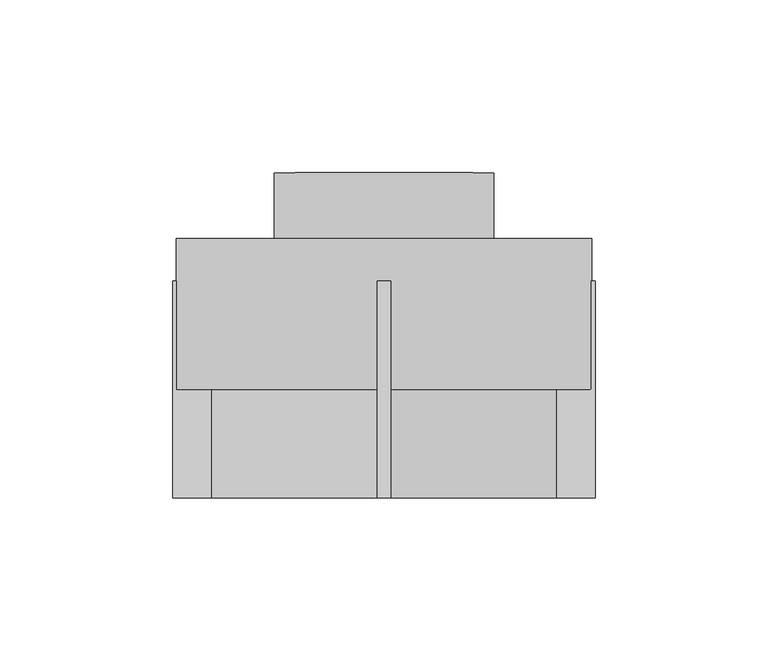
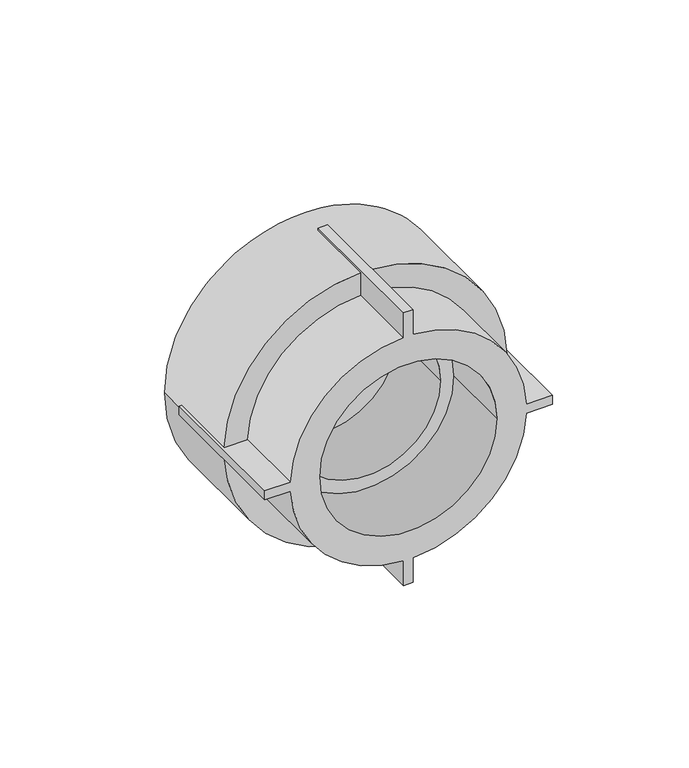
"""IFC4 building model written with IfcOpenShell, lengths in millimetres: pipe fitting geometry, EGB_VASEN_ PPR_Entronque rosca hembra WXR102 : Entronque rosca hembra WXR102."""

import ifcopenshell
import ifcopenshell.guid

model = None  # the IFC model being written
_history = None  # IfcOwnerHistory: only IFC2X3 demands one
_inside = {}  # id of a spatial element -> (the spatial element, [elements in it])
_under = {}  # id of a project, library or spatial element -> (it, [spatial elements below it])
_declared = {}  # id of a project -> (the project, [libraries it declares])
_typed = {}  # id of a type object -> (the type object, [elements of that type])
_made_of = {}  # id of a material, layer set ... -> (it, [elements and type objects made of it])


def new_model(schema):
    """Start an empty IFC model of exactly this schema.

    Asked for "IFC4X3", IfcOpenShell would pick the latest addendum, in which some entities
    have other attributes; the version numbers below select the first issue.
    IFC2X3 requires an IfcOwnerHistory on every rooted entity: one is made here for all.
    """
    global model, _history
    if schema == "IFC4X3":
        model = ifcopenshell.file(schema_version=(4, 3, 0, 0))
    else:
        model = ifcopenshell.file(schema=schema)
    _inside.clear()
    _under.clear()
    _declared.clear()
    _typed.clear()
    _made_of.clear()
    _history = None
    if model.schema == "IFC2X3":
        org = make("IfcOrganization", Name="unknown")
        user = make(
            "IfcPersonAndOrganization",
            ThePerson=make("IfcPerson", FamilyName="unknown"),
            TheOrganization=org,
        )
        app = make(
            "IfcApplication",
            ApplicationDeveloper=org,
            Version="unknown",
            ApplicationFullName="unknown",
            ApplicationIdentifier="unknown",
        )
        _history = make(
            "IfcOwnerHistory",
            OwningUser=user,
            OwningApplication=app,
            ChangeAction="ADDED",
            CreationDate=0,
        )
    return model


def make(cls, **values):
    """One entity of the class cls with the attributes given. An attribute that is None is left unset."""
    return model.create_entity(
        cls, **{name: value for name, value in values.items() if value is not None}
    )


def rooted(cls, **values):
    """An entity with a GlobalId (a new one), such as an element, a storey or a relation."""
    return make(cls, GlobalId=ifcopenshell.guid.new(), OwnerHistory=_history, **values)


def si_unit(unit_type, name, prefix=None):
    """IfcSIUnit, for example si_unit("LENGTHUNIT", "METRE", prefix="MILLI")."""
    return make("IfcSIUnit", UnitType=unit_type, Prefix=prefix, Name=name)


def assignment(units):
    """IfcUnitAssignment: the units of a project."""
    return None if units is None else make("IfcUnitAssignment", Units=units)


def point(xyz):
    """IfcCartesianPoint."""
    return None if xyz is None else make("IfcCartesianPoint", Coordinates=xyz)


def direction(xyz):
    """IfcDirection."""
    return None if xyz is None else make("IfcDirection", DirectionRatios=xyz)


def frame(location, z_axis=None, x_axis=None):
    """IfcAxis2Placement3D, a coordinate frame: its origin and axes. An axis left out is left unset."""
    return make(
        "IfcAxis2Placement3D",
        Location=point(location),
        Axis=direction(z_axis),
        RefDirection=direction(x_axis),
    )


def frame_2d(location, x_axis=None):
    """IfcAxis2Placement2D, a coordinate frame in the plane: its origin and x axis."""
    return make(
        "IfcAxis2Placement2D", Location=point(location), RefDirection=direction(x_axis)
    )


def origin():
    """The frame at (0, 0, 0) with its axes left unset."""
    return frame((0.0, 0.0, 0.0))


def origin_2d():
    """The frame at (0, 0) in the plane with its x axis left unset."""
    return frame_2d((0.0, 0.0))


def place(relative_to, where):
    """IfcLocalPlacement: puts the frame where relative to a parent placement (None: the world)."""
    return make(
        "IfcLocalPlacement", PlacementRelTo=relative_to, RelativePlacement=where
    )


def context(
    kind, dimensions, precision=None, world=None, true_north=None, identifier=None
):
    """IfcGeometricRepresentationContext, for example the 3D "Model" context."""
    return make(
        "IfcGeometricRepresentationContext",
        ContextIdentifier=identifier,
        ContextType=kind,
        CoordinateSpaceDimension=dimensions,
        Precision=precision,
        WorldCoordinateSystem=world,
        TrueNorth=true_north,
    )


def project(units=None, contexts=None):
    """IfcProject with its units and contexts."""
    return rooted(
        "IfcProject",
        Name="project",
        RepresentationContexts=contexts,
        UnitsInContext=assignment(units),
    )


def spatial(cls, under=None, at=None, **own):
    """A site, building, storey or space (cls), placed at a placement, below another one or the project."""
    s = rooted(cls, ObjectPlacement=at, **own)
    if under is not None:
        _under.setdefault(under.id(), (under, []))[1].append(s)
    return s


def polyline(points):
    """IfcPolyline through the points."""
    return make("IfcPolyline", Points=[point(p) for p in points])


def circle_curve(where, radius):
    """IfcCircle in the frame where."""
    return make("IfcCircle", Position=where, Radius=radius)


def trimmed(basis, trim1, trim2, sense, master):
    """IfcTrimmedCurve: the piece of a basis curve between two trims."""
    return make(
        "IfcTrimmedCurve",
        BasisCurve=basis,
        Trim1=trim1,
        Trim2=trim2,
        SenseAgreement=sense,
        MasterRepresentation=master,
    )


def segment(curve, same_sense, transition):
    """IfcCompositeCurveSegment."""
    return make(
        "IfcCompositeCurveSegment",
        Transition=transition,
        SameSense=same_sense,
        ParentCurve=curve,
    )


def composite_curve(segments, self_intersect=None):
    """IfcCompositeCurve: segments joined end to end."""
    return make("IfcCompositeCurve", Segments=segments, SelfIntersect=self_intersect)


def outline(outer, holes=None, kind="AREA"):
    """IfcArbitraryClosedProfileDef: a profile drawn as a closed curve; with holes, ...WithVoids."""
    if holes is None:
        return make("IfcArbitraryClosedProfileDef", ProfileType=kind, OuterCurve=outer)
    return make(
        "IfcArbitraryProfileDefWithVoids",
        ProfileType=kind,
        OuterCurve=outer,
        InnerCurves=holes,
    )


def extrude(swept, where, along, depth):
    """IfcExtrudedAreaSolid: the profile swept, set in the frame where, extruded along a direction by depth."""
    return make(
        "IfcExtrudedAreaSolid",
        SweptArea=swept,
        Position=where,
        ExtrudedDirection=direction(along),
        Depth=depth,
    )


def shape(context_of_items, identifier, shape_type, items):
    """IfcShapeRepresentation: the items that make up one representation, for example the "Body"."""
    return make(
        "IfcShapeRepresentation",
        ContextOfItems=context_of_items,
        RepresentationIdentifier=identifier,
        RepresentationType=shape_type,
        Items=items,
    )


def source(mapping_origin, context_of_items, identifier, shape_type, items):
    """IfcRepresentationMap: a shape defined once, which mapped items show again and again."""
    return make(
        "IfcRepresentationMap",
        MappingOrigin=mapping_origin,
        MappedRepresentation=shape(context_of_items, identifier, shape_type, items),
    )


def transform(
    local_origin,
    x_axis=None,
    y_axis=None,
    z_axis=None,
    scale=None,
    scale2=None,
    scale3=None,
    uniform=True,
):
    """IfcCartesianTransformationOperator3D, or its non-uniform kind. x_axis, y_axis, z_axis: its Axis1, 2, 3."""
    if uniform:
        return make(
            "IfcCartesianTransformationOperator3D",
            Axis1=direction(x_axis),
            Axis2=direction(y_axis),
            LocalOrigin=point(local_origin),
            Scale=scale,
            Axis3=direction(z_axis),
        )
    return make(
        "IfcCartesianTransformationOperator3DnonUniform",
        Axis1=direction(x_axis),
        Axis2=direction(y_axis),
        LocalOrigin=point(local_origin),
        Scale=scale,
        Axis3=direction(z_axis),
        Scale2=scale2,
        Scale3=scale3,
    )


def mapped(mapping_source, mapping_target):
    """IfcMappedItem: shows the shape of a source again, moved by a transform."""
    return make(
        "IfcMappedItem", MappingSource=mapping_source, MappingTarget=mapping_target
    )


def made_of(thing, what):
    """Note that an element or type object is made of a material, layer set ...; save() writes the relation."""
    if what is not None:
        _made_of.setdefault(what.id(), (what, []))[1].append(thing)
    return thing


def element(
    cls,
    number,
    at=None,
    inside=None,
    cuts=None,
    type_object=None,
    material=None,
    context=None,
    identifier="Body",
    shape_type=None,
    held_by="IfcProductDefinitionShape",
    body=None,
    shapes=None,
    **own,
):
    """One element of the class cls, such as IfcWall. Its Tag is "e" and its number.

    at: its placement. inside: the storey or other place that contains it. cuts: it is an
    opening in that element (IfcRelVoidsElement). A single representation is given by context,
    identifier, shape_type and body (its items); several are given by shapes. held_by: the class
    of the entity that holds the representations. save() writes the other relations.
    """
    e = rooted(cls, Tag="e%d" % number, ObjectPlacement=at, **own)
    if body is not None:
        shapes = [shape(context, identifier, shape_type, body)]
    if shapes is not None:
        e.Representation = make(held_by, Representations=shapes)
    if inside is not None:
        _inside.setdefault(inside.id(), (inside, []))[1].append(e)
    if cuts is not None:
        rooted(
            "IfcRelVoidsElement", RelatingBuildingElement=cuts, RelatedOpeningElement=e
        )
    if type_object is not None:
        _typed.setdefault(type_object.id(), (type_object, []))[1].append(e)
    return made_of(e, material)


def aggregate(whole, parts):
    """IfcRelAggregates: a whole, such as a stair, and the parts it consists of."""
    return rooted("IfcRelAggregates", RelatingObject=whole, RelatedObjects=parts)


def save(model, path):
    """Write the relations noted so far, then the file.

    IfcRelAggregates (storeys below a building ...), IfcRelContainedInSpatialStructure (elements
    in a storey), IfcRelDefinesByType, IfcRelAssociatesMaterial and IfcRelDeclares: one each for
    every whole, place, type object, material and project.
    """
    for whole, parts in _under.values():
        aggregate(whole, parts)
    for where, things in _inside.values():
        rooted(
            "IfcRelContainedInSpatialStructure",
            RelatedElements=things,
            RelatingStructure=where,
        )
    for kind, things in _typed.values():
        rooted("IfcRelDefinesByType", RelatedObjects=things, RelatingType=kind)
    for what, things in _made_of.values():
        rooted("IfcRelAssociatesMaterial", RelatedObjects=things, RelatingMaterial=what)
    for by, libraries in _declared.values():
        rooted("IfcRelDeclares", RelatingContext=by, RelatedDefinitions=libraries)
    model.write(path)


def plane_surface(at):
    """IfcPlane: the flat surface through the origin of the frame at, square to its z axis."""
    return make("IfcPlane", Position=at)


def cylinder_surface(at, radius):
    """IfcCylindricalSurface: all points at the distance radius from the z axis of the frame at."""
    return make("IfcCylindricalSurface", Position=at, Radius=radius)


def revolved_surface(curve, axis_point, axis_direction):
    """IfcSurfaceOfRevolution: the curve turned about the line through axis_point along axis_direction."""
    return make(
        "IfcSurfaceOfRevolution",
        SweptCurve=make("IfcArbitraryOpenProfileDef", ProfileType="CURVE", Curve=curve),
        AxisPosition=make("IfcAxis1Placement", Location=point(axis_point), Axis=direction(axis_direction)),
    )


def advanced_brep(points, edges, surfaces, faces):
    """IfcAdvancedBrep: a solid bounded by faces that lie on surfaces and meet in shared edges.

    An edge is (start, end): straight between two places in points (the first is 0);
    or (start, end, curve); or (start, end, curve, False) where it runs against its curve.
    A face is (place in surfaces, loops), or (place, loops, False) where it looks against
    its surface's normal. A loop lists edges by number (the first is 1), with a minus sign
    where the edge is run from its end to its start. The first loop is the outer one.
    """
    corners = [point(p) for p in points]
    vertices = [make("IfcVertexPoint", VertexGeometry=c) for c in corners]
    made = []
    for start, end, *more in edges:
        made.append(
            make(
                "IfcEdgeCurve",
                EdgeStart=vertices[start],
                EdgeEnd=vertices[end],
                EdgeGeometry=more[0] if more else make("IfcPolyline", Points=[corners[start], corners[end]]),
                SameSense=more[1] if len(more) > 1 else True,
            )
        )
    hull = []
    for where, loops, *sense in faces:
        bounds = []
        for j, loop in enumerate(loops):
            ring = [make("IfcOrientedEdge", EdgeElement=made[abs(k) - 1], Orientation=k > 0) for k in loop]
            bounds.append(
                make(
                    "IfcFaceOuterBound" if j == 0 else "IfcFaceBound",
                    Bound=make("IfcEdgeLoop", EdgeList=ring),
                    Orientation=True,
                )
            )
        hull.append(make("IfcAdvancedFace", Bounds=bounds, FaceSurface=surfaces[where], SameSense=sense[0] if sense else True))
    return make("IfcAdvancedBrep", Outer=make("IfcClosedShell", CfsFaces=hull))


def pipe_fitting_2ad57f9a(model_context):
    return source(origin(), model_context, "Body", "SolidModel", [
        advanced_brep(
        [(2.0, -31.3333333, 61.0), (-2.0, -31.3333333, 61.0), (-2.0, -31.3333333, 49.959984), (-49.959984, -31.3333333, 2.0), (-61.0, -31.3333333, 2.0), (-61.0, -31.3333333, -2.0), (-49.959984, -31.3333333, -2.0), (-2.0, -31.3333333, -49.959984), (-2.0, -31.3333333, -61.0), (2.0, -31.3333333, -61.0), (2.0, -31.3333333, -49.959984), (49.959984, -31.3333333, -2.0), (61.0, -31.3333333, -2.0), (61.0, -31.3333333, 2.0), (49.959984, -31.3333333, 2.0), (2.0, -31.3333333, 49.959984), (-37.5, -31.3333333, 0.0), (37.5, -31.3333333, 0.0), (-2.0, 31.3333333, 61.0), (2.0, 31.3333333, 61.0), (2.0, 31.3333333, 59.9666574), (-2.0, 31.3333333, 59.9666574), (2.0, 31.3333333, -61.0), (-2.0, 31.3333333, -61.0), (-2.0, 31.3333333, -59.9666574), (2.0, 31.3333333, -59.9666574), (61.0, 31.3333333, 2.0), (61.0, 31.3333333, -2.0), (59.9666574, 31.3333333, -2.0), (60.0, 31.3333333, 0.0), (59.9666574, 31.3333333, 2.0), (-61.0, 31.3333333, -2.0), (-61.0, 31.3333333, 2.0), (-59.9666574, 31.3333333, 2.0), (-60.0, 31.3333333, 0.0), (-59.9666574, 31.3333333, -2.0), (2.0, 0.0, 49.959984), (2.0, 0.0, 59.9666574), (-2.0, 0.0, 59.9666574), (-2.0, 0.0, 49.959984), (2.0, 0.0, -59.9666574), (2.0, 0.0, -49.959984), (-2.0, 0.0, -49.959984), (-2.0, 0.0, -59.9666574), (49.959984, 0.0, -2.0), (59.9666574, 0.0, -2.0), (59.9666574, 0.0, 2.0), (49.959984, 0.0, 2.0), (-59.9666574, 0.0, -2.0), (-49.959984, 0.0, -2.0), (-49.959984, 0.0, 2.0), (-59.9666574, 0.0, 2.0), (-37.5, 0.0, 0.0), (37.5, 0.0, 0.0), (-31.75, 0.0, 0.0), (31.75, 0.0, 0.0), (-60.0, 43.6666667, 0.0), (60.0, 43.6666667, 0.0), (-31.75, 43.6666667, 0.0), (31.75, 43.6666667, 0.0)],
        [
            (0, 1),
            (1, 2),
            (2, 3, circle_curve(frame((0.0, -31.3333333, 0.0), z_axis=(0.0, -1.0, 0.0), x_axis=(1.0, 0.0, 0.0)), 50.0)),
            (3, 4),
            (4, 5),
            (5, 6),
            (6, 7, circle_curve(frame((0.0, -31.3333333, 0.0), z_axis=(0.0, -1.0, 0.0), x_axis=(1.0, 0.0, 0.0)), 50.0)),
            (7, 8),
            (8, 9),
            (9, 10),
            (10, 11, circle_curve(frame((0.0, -31.3333333, 0.0), z_axis=(0.0, -1.0, 0.0), x_axis=(1.0, 0.0, 0.0)), 50.0)),
            (11, 12),
            (12, 13),
            (13, 14),
            (14, 15, circle_curve(frame((0.0, -31.3333333, 0.0), z_axis=(0.0, -1.0, 0.0), x_axis=(1.0, 0.0, 0.0)), 50.0)),
            (15, 0),
            (16, 17, circle_curve(frame((0.0, -31.3333333, 0.0), z_axis=(0.0, 1.0, 0.0), x_axis=(1.0, 0.0, 0.0)), 37.5)),
            (17, 16, circle_curve(frame((0.0, -31.3333333, 0.0), z_axis=(0.0, 1.0, 0.0), x_axis=(1.0, 0.0, 0.0)), 37.5)),
            (18, 19),
            (19, 20),
            (20, 21, circle_curve(frame((0.0, 31.3333333, 0.0), z_axis=(0.0, -1.0, 0.0), x_axis=(1.0, 0.0, 0.0)), 60.0)),
            (21, 18),
            (22, 23),
            (23, 24),
            (24, 25, circle_curve(frame((0.0, 31.3333333, 0.0), z_axis=(0.0, -1.0, 0.0), x_axis=(1.0, 0.0, 0.0)), 60.0)),
            (25, 22),
            (26, 27),
            (27, 28),
            (28, 29, circle_curve(frame((0.0, 31.3333333, 0.0), z_axis=(0.0, -1.0, 0.0), x_axis=(1.0, 0.0, 0.0)), 60.0)),
            (29, 30, circle_curve(frame((0.0, 31.3333333, 0.0), z_axis=(0.0, -1.0, 0.0), x_axis=(1.0, 0.0, 0.0)), 60.0)),
            (30, 26),
            (31, 32),
            (32, 33),
            (33, 34, circle_curve(frame((0.0, 31.3333333, 0.0), z_axis=(0.0, -1.0, 0.0), x_axis=(1.0, 0.0, 0.0)), 60.0)),
            (34, 35, circle_curve(frame((0.0, 31.3333333, 0.0), z_axis=(0.0, -1.0, 0.0), x_axis=(1.0, 0.0, 0.0)), 60.0)),
            (35, 31),
            (19, 0),
            (15, 36),
            (36, 37),
            (37, 20),
            (18, 1),
            (21, 38),
            (38, 39),
            (39, 2),
            (8, 23),
            (22, 9),
            (25, 40),
            (40, 41),
            (41, 10),
            (7, 42),
            (42, 43),
            (43, 24),
            (27, 12),
            (11, 44),
            (44, 45),
            (45, 28),
            (26, 13),
            (30, 46),
            (46, 47),
            (47, 14),
            (5, 31),
            (35, 48),
            (48, 49),
            (49, 6),
            (32, 4),
            (3, 50),
            (50, 51),
            (51, 33),
            (49, 42, circle_curve(frame((0.0, 0.0, 0.0), z_axis=(0.0, -1.0, 0.0), x_axis=(1.0, 0.0, 0.0)), 50.0)),
            (41, 44, circle_curve(frame((0.0, 0.0, 0.0), z_axis=(0.0, -1.0, 0.0), x_axis=(1.0, 0.0, 0.0)), 50.0)),
            (39, 50, circle_curve(frame((0.0, 0.0, 0.0), z_axis=(0.0, -1.0, 0.0), x_axis=(1.0, 0.0, 0.0)), 50.0)),
            (47, 36, circle_curve(frame((0.0, 0.0, 0.0), z_axis=(0.0, -1.0, 0.0), x_axis=(1.0, 0.0, 0.0)), 50.0)),
            (16, 52),
            (52, 53, circle_curve(frame((0.0, 0.0, 0.0), z_axis=(0.0, 1.0, 0.0), x_axis=(1.0, 0.0, 0.0)), 37.5)),
            (53, 17),
            (53, 52, circle_curve(frame((0.0, 0.0, 0.0), z_axis=(0.0, 1.0, 0.0), x_axis=(1.0, 0.0, 0.0)), 37.5)),
            (54, 55, circle_curve(frame((0.0, 0.0, 0.0), z_axis=(0.0, 1.0, 0.0), x_axis=(1.0, 0.0, 0.0)), 31.75)),
            (55, 54, circle_curve(frame((0.0, 0.0, 0.0), z_axis=(0.0, 1.0, 0.0), x_axis=(1.0, 0.0, 0.0)), 31.75)),
            (40, 45, circle_curve(frame((0.0, 0.0, 0.0), z_axis=(0.0, -1.0, 0.0), x_axis=(1.0, 0.0, 0.0)), 60.0)),
            (48, 43, circle_curve(frame((0.0, 0.0, 0.0), z_axis=(0.0, -1.0, 0.0), x_axis=(1.0, 0.0, 0.0)), 60.0)),
            (46, 37, circle_curve(frame((0.0, 0.0, 0.0), z_axis=(0.0, -1.0, 0.0), x_axis=(1.0, 0.0, 0.0)), 60.0)),
            (38, 51, circle_curve(frame((0.0, 0.0, 0.0), z_axis=(0.0, -1.0, 0.0), x_axis=(1.0, 0.0, 0.0)), 60.0)),
            (56, 57, circle_curve(frame((0.0, 43.6666667, 0.0), z_axis=(0.0, 1.0, 0.0), x_axis=(1.0, 0.0, 0.0)), 60.0)),
            (57, 56, circle_curve(frame((0.0, 43.6666667, 0.0), z_axis=(0.0, 1.0, 0.0), x_axis=(1.0, 0.0, 0.0)), 60.0)),
            (58, 59, circle_curve(frame((0.0, 43.6666667, 0.0), z_axis=(0.0, -1.0, 0.0), x_axis=(1.0, 0.0, 0.0)), 31.75)),
            (59, 58, circle_curve(frame((0.0, 43.6666667, 0.0), z_axis=(0.0, -1.0, 0.0), x_axis=(1.0, 0.0, 0.0)), 31.75)),
            (57, 29),
            (34, 56),
            (54, 58),
            (59, 55),
        ],
        [
            plane_surface(frame((0.0, -31.3333333, 0.0), z_axis=(0.0, -1.0, 0.0), x_axis=(0.0, 0.0, 1.0))),
            plane_surface(frame((0.0, 31.3333333, 0.0), z_axis=(0.0, 1.0, 0.0), x_axis=(0.0, 0.0, 1.0))),
            plane_surface(frame((2.0, -31.3333333, 49.0), z_axis=(1.0, 0.0, 0.0), x_axis=(0.0, 1.0, 0.0))),
            plane_surface(frame((2.0, -31.3333333, 61.0), z_axis=(0.0, 0.0, 1.0), x_axis=(0.0, 1.0, 0.0))),
            plane_surface(frame((-2.0, -31.3333333, 61.0), z_axis=(-1.0, 0.0, 0.0), x_axis=(0.0, 1.0, 0.0))),
            plane_surface(frame((-2.0, -31.3333333, -61.0), z_axis=(0.0, 0.0, -1.0), x_axis=(0.0, 1.0, 0.0))),
            plane_surface(frame((2.0, -31.3333333, -61.0), z_axis=(1.0, 0.0, 0.0), x_axis=(0.0, 1.0, 0.0))),
            plane_surface(frame((-2.0, -31.3333333, -49.0), z_axis=(-1.0, 0.0, 0.0), x_axis=(0.0, 1.0, 0.0))),
            plane_surface(frame((49.0, -31.3333333, -2.0), z_axis=(0.0, 0.0, -1.0), x_axis=(0.0, 1.0, 0.0))),
            plane_surface(frame((61.0, -31.3333333, -2.0), z_axis=(1.0, 0.0, 0.0), x_axis=(0.0, 1.0, 0.0))),
            plane_surface(frame((61.0, -31.3333333, 2.0), z_axis=(0.0, 0.0, 1.0), x_axis=(0.0, 1.0, 0.0))),
            plane_surface(frame((-61.0, -31.3333333, -2.0), z_axis=(0.0, 0.0, -1.0), x_axis=(0.0, 1.0, 0.0))),
            plane_surface(frame((-49.0, -31.3333333, 2.0), z_axis=(0.0, 0.0, 1.0), x_axis=(0.0, 1.0, 0.0))),
            plane_surface(frame((-61.0, -31.3333333, 2.0), z_axis=(-1.0, 0.0, 0.0), x_axis=(0.0, 1.0, 0.0))),
            cylinder_surface(frame((0.0, 0.0, 0.0), z_axis=(0.0, -1.0, 0.0), x_axis=(1.0, 0.0, 0.0)), 50.0),
            revolved_surface(polyline([(37.5, 0.0, 0.0), (37.5, -31.3333333, 0.0)]), (0.0, 0.0, 0.0), (0.0, 1.0, 0.0)),
            plane_surface(frame((60.0, 0.0, 0.0), z_axis=(0.0, -1.0, 0.0), x_axis=(0.0, 0.0, 1.0))),
            plane_surface(frame((60.0, 43.6666667, 0.0), z_axis=(0.0, 1.0, 0.0), x_axis=(0.0, 0.0, -1.0))),
            cylinder_surface(frame((0.0, 43.6666667, 0.0), z_axis=(0.0, -1.0, 0.0), x_axis=(1.0, 0.0, 0.0)), 60.0),
            revolved_surface(polyline([(31.75, 43.6666667, 0.0), (31.75, 0.0, 0.0)]), (0.0, 0.0, 0.0), (0.0, 1.0, 0.0)),
        ],
        [
            (0, [[1, 2, 3, 4, 5, 6, 7, 8, 9, 10, 11, 12, 13, 14, 15, 16], [17, 18]]),
            (1, [[19, 20, 21, 22]]),
            (1, [[23, 24, 25, 26]]),
            (1, [[27, 28, 29, 30, 31]]),
            (1, [[32, 33, 34, 35, 36]]),
            (2, [[37, -16, 38, 39, 40, -20]]),
            (3, [[-1, -37, -19, 41]]),
            (4, [[-41, -22, 42, 43, 44, -2]]),
            (5, [[-9, 45, -23, 46]]),
            (6, [[-46, -26, 47, 48, 49, -10]]),
            (7, [[-45, -8, 50, 51, 52, -24]]),
            (8, [[53, -12, 54, 55, 56, -28]]),
            (9, [[-13, -53, -27, 57]]),
            (10, [[-57, -31, 58, 59, 60, -14]]),
            (11, [[61, -36, 62, 63, 64, -6]]),
            (12, [[65, -4, 66, 67, 68, -33]]),
            (13, [[-5, -65, -32, -61]]),
            (14, [[-7, -64, 69, -50]]),
            (14, [[-11, -49, 70, -54]]),
            (14, [[-3, -44, 71, -66]]),
            (14, [[-15, -60, 72, -38]]),
            (15, [[-17, 73, 74, 75]]),
            (15, [[-18, -75, 76, -73]]),
            (16, [[-74, -76], [77, 78]]),
            (16, [[79, -55, -70, -48]]),
            (16, [[80, -51, -69, -63]]),
            (16, [[81, -39, -72, -59]]),
            (16, [[82, -67, -71, -43]]),
            (17, [[83, 84], [85, 86]]),
            (18, [[-84, 87, -29, -56, -79, -47, -25, -52, -80, -62, -35, 88]]),
            (18, [[-83, -88, -34, -68, -82, -42, -21, -40, -81, -58, -30, -87]]),
            (19, [[-77, 89, -86, 90]]),
            (19, [[-78, -90, -85, -89]]),
        ],
    ),
        extrude(outline(composite_curve([segment(trimmed(circle_curve(origin_2d(), 31.75), [point((0.0, -31.75))], [point((0.0, 31.75))], False, "CARTESIAN"), True, "CONTINUOUS"), segment(trimmed(circle_curve(origin_2d(), 31.75), [point((0.0, 31.75))], [point((0.0, -31.75))], False, "CARTESIAN"), True, "CONTINUOUS")], self_intersect=False)), frame((0.0, 31.3333333, 0.0), z_axis=(0.0, 1.0, 0.0), x_axis=(0.0, 0.0, 1.0)), (0.0, 0.0, 1.0), 31.3333333),
    ])


if __name__ == "__main__":
    model = new_model("IFC4")
    model_context = context("Model", 3, world=origin())
    ifc_project = project(units=[si_unit("LENGTHUNIT", "METRE", prefix="MILLI")], contexts=[model_context])
    site = spatial("IfcSite", under=ifc_project)
    building = spatial("IfcBuilding", under=site)
    placement = place(None, origin())
    pipe_fitting_shape = pipe_fitting_2ad57f9a(model_context)
    element("IfcPipeFitting", 1, ObjectType="EGB_VASEN_ PPR_Entronque rosca hembra WXR102 : Entronque rosca hembra WXR102", at=placement, inside=building, context=model_context, shape_type="MappedRepresentation", body=[
        mapped(pipe_fitting_shape, transform((0.0, 0.0, 0.0), x_axis=(1.0, 0.0, 0.0), y_axis=(0.0, 1.0, 0.0), z_axis=(0.0, 0.0, 1.0))),
    ])
    save(model, "model.ifc")
